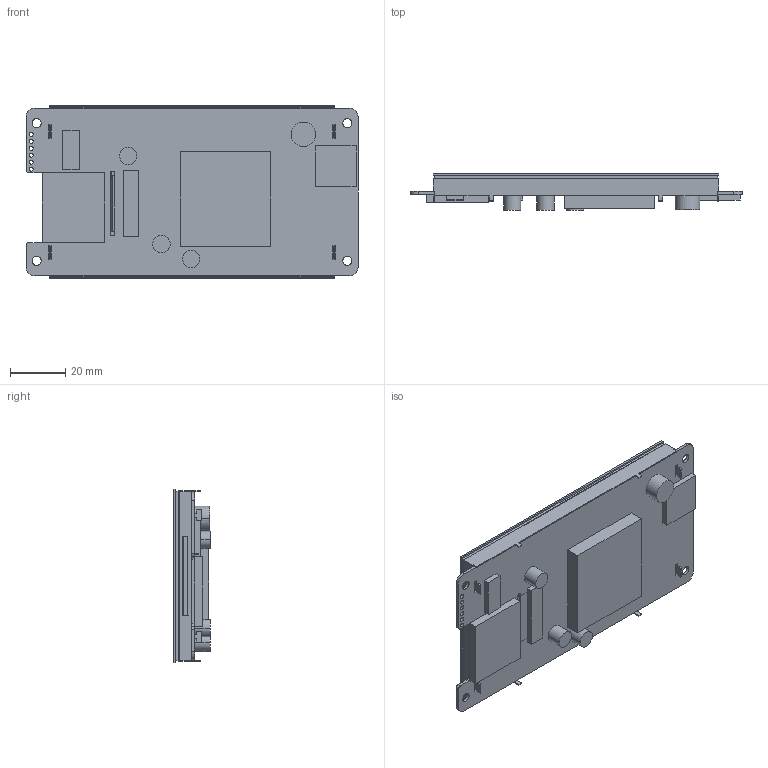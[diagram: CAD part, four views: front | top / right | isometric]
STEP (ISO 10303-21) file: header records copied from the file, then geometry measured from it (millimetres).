
FILE_DESCRIPTION((''),'2;1');
FILE_NAME('DMG80480C043-02W_ASM','2023-02-15T',('Administrator'),(''),'PRO/ENGINEER BY PARAMETRIC TECHNOLOGY CORPORATION, 2014320','PRO/ENGINEER BY PARAMETRIC TECHNOLOGY CORPORATION, 2014320','');
FILE_SCHEMA(('CONFIG_CONTROL_DESIGN','SHAPE_APPEARANCE_LAYERS_GROUPS'));
Length unit declared in the file: millimetre
Products named in the file (5): TK; 043IPS; PCB; CTP; DMG80480C043-02W_ASM
Assembly tree (4 placements, depth 2):
  DMG80480C043-02W_ASM
    TK
    043IPS
    PCB
    CTP
Bounding box: 120.67 x 13.28 x 62.96 mm (x, y, z)
Volume: 44249.7 mm3; surface area: 51193.8 mm2
Topology: 4 solids, 4 shells, 236 faces, 633 edges, 421 vertices
Faces by surface type: plane 188, cylinder 48
Entity records: 8544 total; most frequent: CARTESIAN_POINT 1330, ORIENTED_EDGE 1266, DIRECTION 1211, EDGE_CURVE 633, VECTOR 531, LINE 531, VERTEX_POINT 421, AXIS2_PLACEMENT_3D 340
